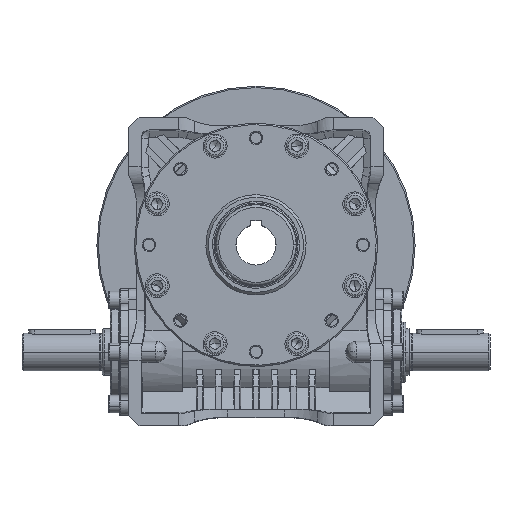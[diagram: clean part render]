
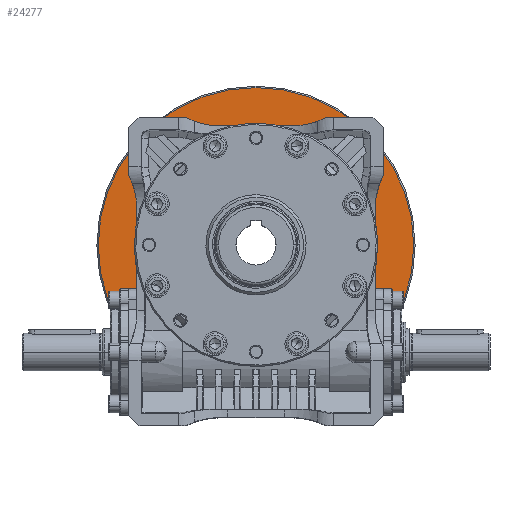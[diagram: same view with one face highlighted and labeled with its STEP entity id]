
A CAD part, top view. The second image highlights one B-rep face of the part: STEP entity #24277.
In plain terms, the highlighted planar face has unit normal (0, 0, 1).
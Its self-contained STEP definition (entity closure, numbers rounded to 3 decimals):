
#135 = DIRECTION ( 'NONE',  ( 0., 0., -1. ) ) ;
#1854 = VERTEX_POINT ( 'NONE', #21866 ) ;
#3651 = CIRCLE ( 'NONE', #77519, 7. ) ;
#3694 = CARTESIAN_POINT ( 'NONE',  ( -67.246, 74.246, -101. ) ) ;
#4648 = ORIENTED_EDGE ( 'NONE', *, *, #22863, .T. ) ;
#4839 = EDGE_CURVE ( 'NONE', #70165, #59989, #65345, .T. ) ;
#5509 = EDGE_CURVE ( 'NONE', #16911, #99282, #22490, .T. ) ;
#7507 = VERTEX_POINT ( 'NONE', #56211 ) ;
#9048 = AXIS2_PLACEMENT_3D ( 'NONE', #18200, #24663, #41369 ) ;
#9246 = VERTEX_POINT ( 'NONE', #58748 ) ;
#10470 = DIRECTION ( 'NONE',  ( 0., 0., -1. ) ) ;
#11295 = CARTESIAN_POINT ( 'NONE',  ( 67.246, -74.246, -101. ) ) ;
#11312 = CIRCLE ( 'NONE', #73093, 7. ) ;
#12964 = CIRCLE ( 'NONE', #74825, 7. ) ;
#13814 = AXIS2_PLACEMENT_3D ( 'NONE', #21842, #71320, #104002 ) ;
#14211 = CIRCLE ( 'NONE', #9048, 91. ) ;
#14720 = FACE_BOUND ( 'NONE', #14755, .T. ) ;
#14755 = EDGE_LOOP ( 'NONE', ( #85167, #59972 ) ) ;
#16216 = AXIS2_PLACEMENT_3D ( 'NONE', #32252, #81135, #90221 ) ;
#16911 = VERTEX_POINT ( 'NONE', #49638 ) ;
#17103 = AXIS2_PLACEMENT_3D ( 'NONE', #43768, #28117, #62010 ) ;
#17620 = ORIENTED_EDGE ( 'NONE', *, *, #74032, .T. ) ;
#17751 = EDGE_CURVE ( 'NONE', #92961, #68015, #11312, .T. ) ;
#18200 = CARTESIAN_POINT ( 'NONE',  ( 0., 0., -101. ) ) ;
#18763 = ORIENTED_EDGE ( 'NONE', *, *, #39131, .T. ) ;
#19442 = AXIS2_PLACEMENT_3D ( 'NONE', #56158, #135, #106015 ) ;
#21842 = CARTESIAN_POINT ( 'NONE',  ( 0., 0., -101. ) ) ;
#21866 = CARTESIAN_POINT ( 'NONE',  ( -81.246, 74.246, -101. ) ) ;
#22490 = CIRCLE ( 'NONE', #82564, 7. ) ;
#22863 = EDGE_CURVE ( 'NONE', #68015, #92961, #87714, .T. ) ;
#23863 = DIRECTION ( 'NONE',  ( 0., 0., 1. ) ) ;
#24277 = ADVANCED_FACE ( 'NONE', ( #30882, #104429, #55622, #14720, #80300, #72266 ), #104950, .F. ) ;
#24663 = DIRECTION ( 'NONE',  ( 0., 0., -1. ) ) ;
#25530 = DIRECTION ( 'NONE',  ( -1., 0., 0. ) ) ;
#28117 = DIRECTION ( 'NONE',  ( 0., 0., -1. ) ) ;
#30253 = CARTESIAN_POINT ( 'NONE',  ( 74.246, 74.246, -101. ) ) ;
#30882 = FACE_OUTER_BOUND ( 'NONE', #65034, .T. ) ;
#32252 = CARTESIAN_POINT ( 'NONE',  ( -74.246, -74.246, -101. ) ) ;
#33107 = AXIS2_PLACEMENT_3D ( 'NONE', #88718, #47957, #80157 ) ;
#33481 = VERTEX_POINT ( 'NONE', #98741 ) ;
#33603 = DIRECTION ( 'NONE',  ( 0., 0., -1. ) ) ;
#33747 = EDGE_LOOP ( 'NONE', ( #4648, #48474 ) ) ;
#34138 = CARTESIAN_POINT ( 'NONE',  ( -74.246, 74.246, -101. ) ) ;
#34564 = CARTESIAN_POINT ( 'NONE',  ( -91., 0., -101. ) ) ;
#35210 = CARTESIAN_POINT ( 'NONE',  ( 74.246, -74.246, -101. ) ) ;
#37993 = EDGE_LOOP ( 'NONE', ( #17620, #99840 ) ) ;
#39131 = EDGE_CURVE ( 'NONE', #85249, #33481, #41729, .T. ) ;
#39482 = ORIENTED_EDGE ( 'NONE', *, *, #86257, .T. ) ;
#41369 = DIRECTION ( 'NONE',  ( -1., 0., 0. ) ) ;
#41432 = AXIS2_PLACEMENT_3D ( 'NONE', #35210, #10470, #59970 ) ;
#41729 = CIRCLE ( 'NONE', #33107, 91. ) ;
#43123 = EDGE_CURVE ( 'NONE', #33481, #85249, #14211, .T. ) ;
#43768 = CARTESIAN_POINT ( 'NONE',  ( 74.246, 74.246, -101. ) ) ;
#45211 = CARTESIAN_POINT ( 'NONE',  ( -74.246, 74.246, -101. ) ) ;
#46246 = ORIENTED_EDGE ( 'NONE', *, *, #62536, .T. ) ;
#47957 = DIRECTION ( 'NONE',  ( 0., 0., -1. ) ) ;
#48474 = ORIENTED_EDGE ( 'NONE', *, *, #17751, .T. ) ;
#48951 = CARTESIAN_POINT ( 'NONE',  ( 118., 0., -101. ) ) ;
#49638 = CARTESIAN_POINT ( 'NONE',  ( -67.246, -74.246, -101. ) ) ;
#51565 = VERTEX_POINT ( 'NONE', #3694 ) ;
#55622 = FACE_BOUND ( 'NONE', #33747, .T. ) ;
#56142 = EDGE_LOOP ( 'NONE', ( #18763, #96594 ) ) ;
#56158 = CARTESIAN_POINT ( 'NONE',  ( 0., 91., -101. ) ) ;
#56211 = CARTESIAN_POINT ( 'NONE',  ( 81.246, 74.246, -101. ) ) ;
#56597 = DIRECTION ( 'NONE',  ( 0., 0., -1. ) ) ;
#57118 = DIRECTION ( 'NONE',  ( -1., 0., 0. ) ) ;
#58679 = EDGE_CURVE ( 'NONE', #7507, #9246, #3651, .T. ) ;
#58748 = CARTESIAN_POINT ( 'NONE',  ( 67.246, 74.246, -101. ) ) ;
#59970 = DIRECTION ( 'NONE',  ( -1., 0., 0. ) ) ;
#59972 = ORIENTED_EDGE ( 'NONE', *, *, #58679, .T. ) ;
#59989 = VERTEX_POINT ( 'NONE', #96801 ) ;
#60174 = AXIS2_PLACEMENT_3D ( 'NONE', #45211, #70979, #79020 ) ;
#62010 = DIRECTION ( 'NONE',  ( -1., 0., 0. ) ) ;
#62536 = EDGE_CURVE ( 'NONE', #99282, #16911, #88245, .T. ) ;
#65034 = EDGE_LOOP ( 'NONE', ( #39482, #65598 ) ) ;
#65345 = CIRCLE ( 'NONE', #13814, 118. ) ;
#65598 = ORIENTED_EDGE ( 'NONE', *, *, #4839, .T. ) ;
#66939 = CIRCLE ( 'NONE', #17103, 7. ) ;
#68015 = VERTEX_POINT ( 'NONE', #11295 ) ;
#68708 = CARTESIAN_POINT ( 'NONE',  ( -81.246, -74.246, -101. ) ) ;
#70165 = VERTEX_POINT ( 'NONE', #48951 ) ;
#70879 = CARTESIAN_POINT ( 'NONE',  ( 81.246, -74.246, -101. ) ) ;
#70979 = DIRECTION ( 'NONE',  ( 0., 0., -1. ) ) ;
#71320 = DIRECTION ( 'NONE',  ( 0., 0., 1. ) ) ;
#72266 = FACE_BOUND ( 'NONE', #56142, .T. ) ;
#73093 = AXIS2_PLACEMENT_3D ( 'NONE', #75150, #83164, #74604 ) ;
#74032 = EDGE_CURVE ( 'NONE', #1854, #51565, #75570, .T. ) ;
#74604 = DIRECTION ( 'NONE',  ( -1., 0., 0. ) ) ;
#74825 = AXIS2_PLACEMENT_3D ( 'NONE', #34138, #33603, #25530 ) ;
#74913 = CARTESIAN_POINT ( 'NONE',  ( 0., 0., -101. ) ) ;
#75150 = CARTESIAN_POINT ( 'NONE',  ( 74.246, -74.246, -101. ) ) ;
#75570 = CIRCLE ( 'NONE', #60174, 7. ) ;
#76328 = EDGE_CURVE ( 'NONE', #51565, #1854, #12964, .T. ) ;
#77519 = AXIS2_PLACEMENT_3D ( 'NONE', #30253, #56597, #57118 ) ;
#79020 = DIRECTION ( 'NONE',  ( -1., 0., 0. ) ) ;
#79796 = AXIS2_PLACEMENT_3D ( 'NONE', #74913, #23863, #98464 ) ;
#80157 = DIRECTION ( 'NONE',  ( -1., 0., 0. ) ) ;
#80300 = FACE_BOUND ( 'NONE', #37993, .T. ) ;
#81135 = DIRECTION ( 'NONE',  ( 0., 0., -1. ) ) ;
#82564 = AXIS2_PLACEMENT_3D ( 'NONE', #101100, #100028, #83970 ) ;
#83164 = DIRECTION ( 'NONE',  ( 0., 0., -1. ) ) ;
#83970 = DIRECTION ( 'NONE',  ( -1., 0., 0. ) ) ;
#84567 = EDGE_LOOP ( 'NONE', ( #46246, #90166 ) ) ;
#85167 = ORIENTED_EDGE ( 'NONE', *, *, #91078, .T. ) ;
#85249 = VERTEX_POINT ( 'NONE', #34564 ) ;
#86257 = EDGE_CURVE ( 'NONE', #59989, #70165, #101986, .T. ) ;
#87714 = CIRCLE ( 'NONE', #41432, 7. ) ;
#88245 = CIRCLE ( 'NONE', #16216, 7. ) ;
#88718 = CARTESIAN_POINT ( 'NONE',  ( 0., 0., -101. ) ) ;
#90166 = ORIENTED_EDGE ( 'NONE', *, *, #5509, .T. ) ;
#90221 = DIRECTION ( 'NONE',  ( -1., 0., 0. ) ) ;
#91078 = EDGE_CURVE ( 'NONE', #9246, #7507, #66939, .T. ) ;
#92961 = VERTEX_POINT ( 'NONE', #70879 ) ;
#96594 = ORIENTED_EDGE ( 'NONE', *, *, #43123, .T. ) ;
#96801 = CARTESIAN_POINT ( 'NONE',  ( -118., 0., -101. ) ) ;
#98464 = DIRECTION ( 'NONE',  ( -1., 0., 0. ) ) ;
#98741 = CARTESIAN_POINT ( 'NONE',  ( 91., 0., -101. ) ) ;
#99282 = VERTEX_POINT ( 'NONE', #68708 ) ;
#99840 = ORIENTED_EDGE ( 'NONE', *, *, #76328, .T. ) ;
#100028 = DIRECTION ( 'NONE',  ( 0., 0., -1. ) ) ;
#101100 = CARTESIAN_POINT ( 'NONE',  ( -74.246, -74.246, -101. ) ) ;
#101986 = CIRCLE ( 'NONE', #79796, 118. ) ;
#104002 = DIRECTION ( 'NONE',  ( -1., 0., 0. ) ) ;
#104429 = FACE_BOUND ( 'NONE', #84567, .T. ) ;
#104950 = PLANE ( 'NONE',  #19442 ) ;
#106015 = DIRECTION ( 'NONE',  ( -1., 0., 0. ) ) ;
